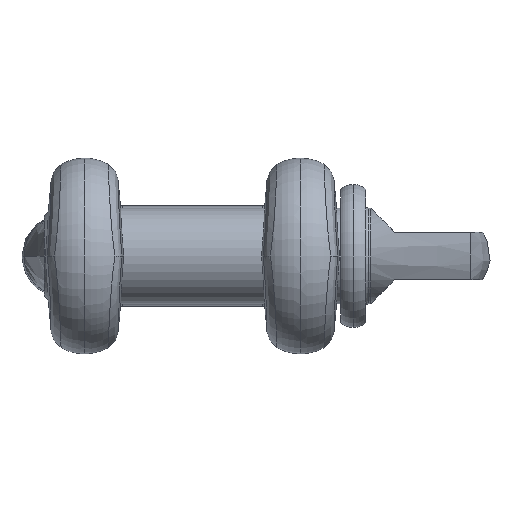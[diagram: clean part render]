
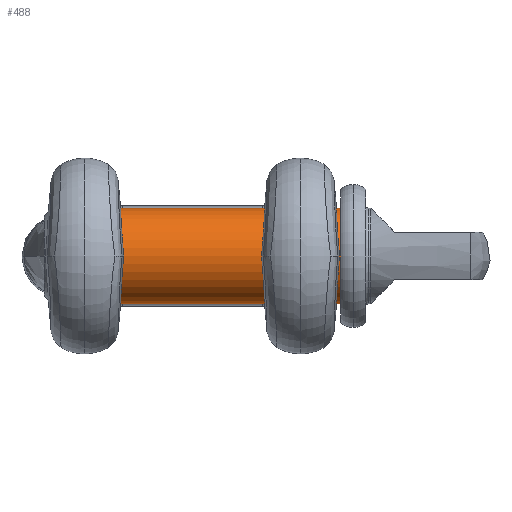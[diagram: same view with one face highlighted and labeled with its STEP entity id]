
A CAD part, front view. The second image highlights one B-rep face of the part: STEP entity #488.
In plain terms, the highlighted cylindrical face has radius 9.5 mm (diameter 19 mm), a partial arc.
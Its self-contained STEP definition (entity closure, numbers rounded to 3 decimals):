
#488=ADVANCED_FACE('',(#1421),#1422,.T.);
#1421=FACE_OUTER_BOUND('',#10403,.T.);
#1422=CYLINDRICAL_SURFACE('',#10404,9.5);
#10403=EDGE_LOOP('',(#14315,#14316,#14317,#14318));
#10404=AXIS2_PLACEMENT_3D('',#14319,#14320,#14321);
#14315=ORIENTED_EDGE('',*,*,#15962,.F.);
#14316=ORIENTED_EDGE('',*,*,#16034,.T.);
#14317=ORIENTED_EDGE('',*,*,#15964,.T.);
#14318=ORIENTED_EDGE('',*,*,#16033,.F.);
#14319=CARTESIAN_POINT('',(-29.5,0.,0.0));
#14320=DIRECTION('',(-1.0,0.0,0.0));
#14321=DIRECTION('',(0.0,0.0,-1.0));
#15962=EDGE_CURVE('',#17971,#17976,#17977,.T.);
#15964=EDGE_CURVE('',#17973,#17978,#17980,.T.);
#16033=EDGE_CURVE('',#17976,#17978,#18108,.T.);
#16034=EDGE_CURVE('',#17971,#17973,#18109,.T.);
#17971=VERTEX_POINT('',#26525);
#17973=VERTEX_POINT('',#26528);
#17976=VERTEX_POINT('',#26532);
#17977=LINE('',#26533,#26534);
#17978=VERTEX_POINT('',#26535);
#17980=LINE('',#26537,#26538);
#18108=CIRCLE('',#27077,9.5);
#18109=CIRCLE('',#27078,9.5);
#26525=CARTESIAN_POINT('',(-14.7,0.,9.5));
#26528=CARTESIAN_POINT('',(-14.7,0.,-9.5));
#26532=CARTESIAN_POINT('',(29.5,0.,9.5));
#26533=CARTESIAN_POINT('',(-29.5,0.,9.5));
#26534=VECTOR('',#28436,1000.0);
#26535=CARTESIAN_POINT('',(29.5,0.,-9.5));
#26537=CARTESIAN_POINT('',(-29.5,0.,-9.5));
#26538=VECTOR('',#28440,1000.0);
#27077=AXIS2_PLACEMENT_3D('',#28508,#28509,#28510);
#27078=AXIS2_PLACEMENT_3D('',#28511,#28512,#28513);
#28436=DIRECTION('',(1.0,0.0,0.0));
#28440=DIRECTION('',(1.0,0.0,0.0));
#28508=CARTESIAN_POINT('',(29.5,0.,0.0));
#28509=DIRECTION('',(1.0,0.0,0.0));
#28510=DIRECTION('',(0.0,0.0,-1.0));
#28511=CARTESIAN_POINT('',(-14.7,0.,0.0));
#28512=DIRECTION('',(1.0,0.0,0.0));
#28513=DIRECTION('',(0.0,0.0,-1.0));
